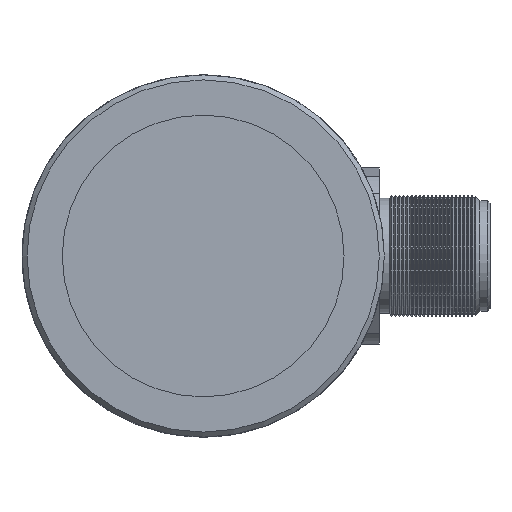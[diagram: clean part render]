
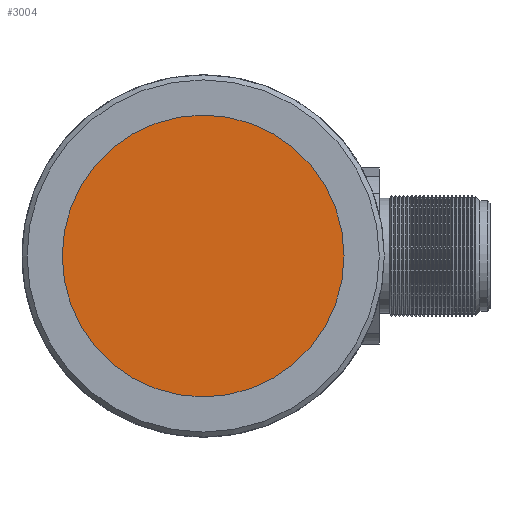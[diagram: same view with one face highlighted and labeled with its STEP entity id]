
A CAD part, left-side view. The second image highlights one B-rep face of the part: STEP entity #3004.
In plain terms, the highlighted planar face has unit normal (-1, 0, 0).
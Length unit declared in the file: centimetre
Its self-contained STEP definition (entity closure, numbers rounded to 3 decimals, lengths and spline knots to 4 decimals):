
#398=PLANE('',#3246);
#743=VERTEX_POINT('',#3605);
#1007=CIRCLE('',#3245,1.4);
#1175=EDGE_CURVE('',#743,#743,#1007,.T.);
#1565=ORIENTED_EDGE('',*,*,#1175,.T.);
#2328=EDGE_LOOP('',(#1565));
#2671=FACE_BOUND('',#2328,.T.);
#3004=ADVANCED_FACE('',(#2671),#398,.F.);
#3245=AXIS2_PLACEMENT_3D('',#3604,#4819,#4820);
#3246=AXIS2_PLACEMENT_3D('',#3606,#4821,$);
#3604=CARTESIAN_POINT('',(-4.1,0.,0.));
#3605=CARTESIAN_POINT('',(-4.1,0.,-1.4));
#3606=CARTESIAN_POINT('',(-4.1,0.,0.));
#4819=DIRECTION('',(-1.,0.,0.));
#4820=DIRECTION('',(0.,0.,-1.4));
#4821=DIRECTION('',(1.,0.,0.));
